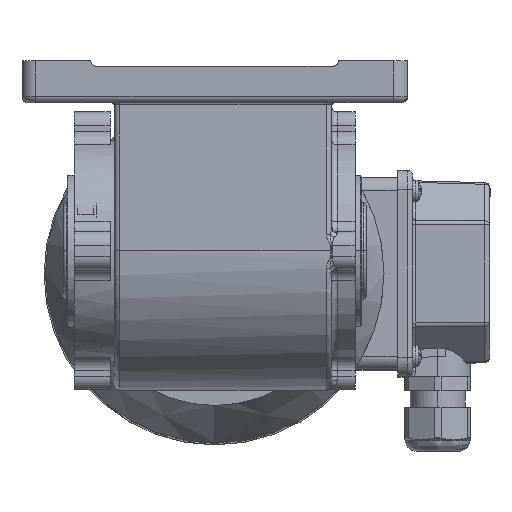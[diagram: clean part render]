
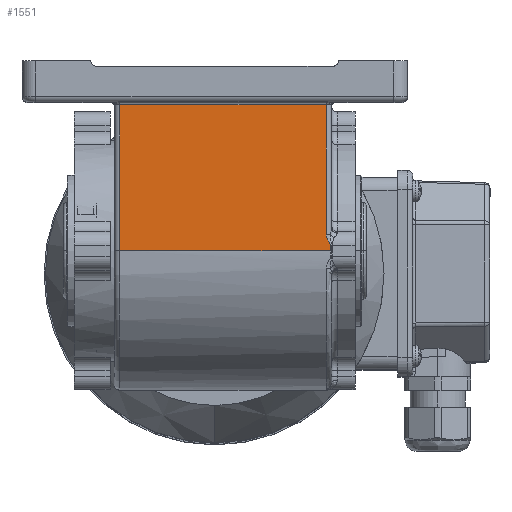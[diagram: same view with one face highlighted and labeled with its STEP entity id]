
A CAD part, top view. The second image highlights one B-rep face of the part: STEP entity #1551.
In plain terms, the highlighted planar face has unit normal (0, 0, 1).
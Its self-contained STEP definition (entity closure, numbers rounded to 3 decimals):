
#326 = AXIS2_PLACEMENT_3D ( 'NONE', #1931, #21289, #2458 ) ;
#766 = EDGE_CURVE ( 'NONE', #21141, #6780, #31110, .T. ) ;
#1551 = ADVANCED_FACE ( 'NONE', ( #34722 ), #20604, .F. ) ;
#1931 = CARTESIAN_POINT ( 'NONE',  ( 42.5, 61., 88. ) ) ;
#2382 = CARTESIAN_POINT ( 'NONE',  ( 41.839, 10.429, 88. ) ) ;
#2458 = DIRECTION ( 'NONE',  ( 0., 1., 0. ) ) ;
#2957 = B_SPLINE_CURVE_WITH_KNOTS ( 'NONE', 3,
 ( #31833, #4857, #8202, #5383, #2382, #13440, #29533, #34654, #13263, #13080, #15932, #10446, #7855, #7515, #26733, #12904 ),
 .UNSPECIFIED., .F., .F.,
 ( 4, 2, 2, 2, 2, 2, 2, 4 ),
 ( 0., 0., 0.001, 0.001, 0.002, 0.003, 0.004, 0.004 ),
 .UNSPECIFIED. ) ;
#3380 = EDGE_LOOP ( 'NONE', ( #18258, #31329, #11333, #6381, #33948, #16229 ) ) ;
#3460 = CARTESIAN_POINT ( 'NONE',  ( 41.928, 10., 88. ) ) ;
#4221 = CARTESIAN_POINT ( 'NONE',  ( -34.5, 61., 88. ) ) ;
#4483 = DIRECTION ( 'NONE',  ( 0., 1., 0. ) ) ;
#4830 = VECTOR ( 'NONE', #29792, 1000. ) ;
#4857 = CARTESIAN_POINT ( 'NONE',  ( 41.928, 10.089, 88. ) ) ;
#5383 = CARTESIAN_POINT ( 'NONE',  ( 41.87, 10.347, 88. ) ) ;
#5390 = DIRECTION ( 'NONE',  ( -1., 0., 0. ) ) ;
#6152 = VECTOR ( 'NONE', #4483, 1000. ) ;
#6381 = ORIENTED_EDGE ( 'NONE', *, *, #14249, .T. ) ;
#6780 = VERTEX_POINT ( 'NONE', #3460 ) ;
#7515 = CARTESIAN_POINT ( 'NONE',  ( 40.515, 13.58, 88. ) ) ;
#7855 = CARTESIAN_POINT ( 'NONE',  ( 40.568, 13.231, 88. ) ) ;
#8202 = CARTESIAN_POINT ( 'NONE',  ( 41.915, 10.178, 88. ) ) ;
#10108 = VERTEX_POINT ( 'NONE', #28087 ) ;
#10116 = CARTESIAN_POINT ( 'NONE',  ( 42.5, 8., 88. ) ) ;
#10446 = CARTESIAN_POINT ( 'NONE',  ( 40.607, 13.059, 88. ) ) ;
#11333 = ORIENTED_EDGE ( 'NONE', *, *, #13531, .T. ) ;
#11879 = LINE ( 'NONE', #30613, #31088 ) ;
#12904 = CARTESIAN_POINT ( 'NONE',  ( 40.5, 13.936, 88. ) ) ;
#13080 = CARTESIAN_POINT ( 'NONE',  ( 40.89, 12.223, 88. ) ) ;
#13263 = CARTESIAN_POINT ( 'NONE',  ( 41.204, 11.591, 88. ) ) ;
#13440 = CARTESIAN_POINT ( 'NONE',  ( 41.732, 10.671, 88. ) ) ;
#13492 = VERTEX_POINT ( 'NONE', #21223 ) ;
#13531 = EDGE_CURVE ( 'NONE', #10108, #29943, #26913, .T. ) ;
#13814 = CARTESIAN_POINT ( 'NONE',  ( 40.5, 13.936, 88. ) ) ;
#14249 = EDGE_CURVE ( 'NONE', #29943, #13492, #11879, .T. ) ;
#14602 = VECTOR ( 'NONE', #5390, 1000. ) ;
#15660 = CARTESIAN_POINT ( 'NONE',  ( 40.5, 61., 88. ) ) ;
#15928 = EDGE_CURVE ( 'NONE', #17549, #10108, #29098, .T. ) ;
#15932 = CARTESIAN_POINT ( 'NONE',  ( 40.753, 12.552, 88. ) ) ;
#16229 = ORIENTED_EDGE ( 'NONE', *, *, #766, .T. ) ;
#16827 = VECTOR ( 'NONE', #26407, 1000. ) ;
#17549 = VERTEX_POINT ( 'NONE', #13814 ) ;
#18258 = ORIENTED_EDGE ( 'NONE', *, *, #24957, .T. ) ;
#20604 = PLANE ( 'NONE',  #326 ) ;
#21141 = VERTEX_POINT ( 'NONE', #32685 ) ;
#21223 = CARTESIAN_POINT ( 'NONE',  ( -34.5, 8., 88. ) ) ;
#21289 = DIRECTION ( 'NONE',  ( 0., 0., -1. ) ) ;
#23153 = CARTESIAN_POINT ( 'NONE',  ( 41.928, 61., 88. ) ) ;
#24957 = EDGE_CURVE ( 'NONE', #6780, #17549, #2957, .T. ) ;
#24970 = DIRECTION ( 'NONE',  ( 0., -1., 0. ) ) ;
#26230 = LINE ( 'NONE', #10116, #16827 ) ;
#26407 = DIRECTION ( 'NONE',  ( -1., 0., 0. ) ) ;
#26733 = CARTESIAN_POINT ( 'NONE',  ( 40.5, 13.758, 88. ) ) ;
#26913 = LINE ( 'NONE', #32198, #14602 ) ;
#28087 = CARTESIAN_POINT ( 'NONE',  ( 40.5, 61., 88. ) ) ;
#29098 = LINE ( 'NONE', #15660, #4830 ) ;
#29533 = CARTESIAN_POINT ( 'NONE',  ( 41.646, 10.826, 88. ) ) ;
#29792 = DIRECTION ( 'NONE',  ( 0., 1., 0. ) ) ;
#29943 = VERTEX_POINT ( 'NONE', #4221 ) ;
#30613 = CARTESIAN_POINT ( 'NONE',  ( -34.5, 61., 88. ) ) ;
#31088 = VECTOR ( 'NONE', #24970, 1000. ) ;
#31110 = LINE ( 'NONE', #23153, #6152 ) ;
#31329 = ORIENTED_EDGE ( 'NONE', *, *, #15928, .T. ) ;
#31833 = CARTESIAN_POINT ( 'NONE',  ( 41.928, 10., 88. ) ) ;
#32198 = CARTESIAN_POINT ( 'NONE',  ( 42.5, 61., 88. ) ) ;
#32685 = CARTESIAN_POINT ( 'NONE',  ( 41.928, 8., 88. ) ) ;
#33948 = ORIENTED_EDGE ( 'NONE', *, *, #34515, .F. ) ;
#34515 = EDGE_CURVE ( 'NONE', #21141, #13492, #26230, .T. ) ;
#34654 = CARTESIAN_POINT ( 'NONE',  ( 41.384, 11.287, 88. ) ) ;
#34722 = FACE_OUTER_BOUND ( 'NONE', #3380, .T. ) ;
